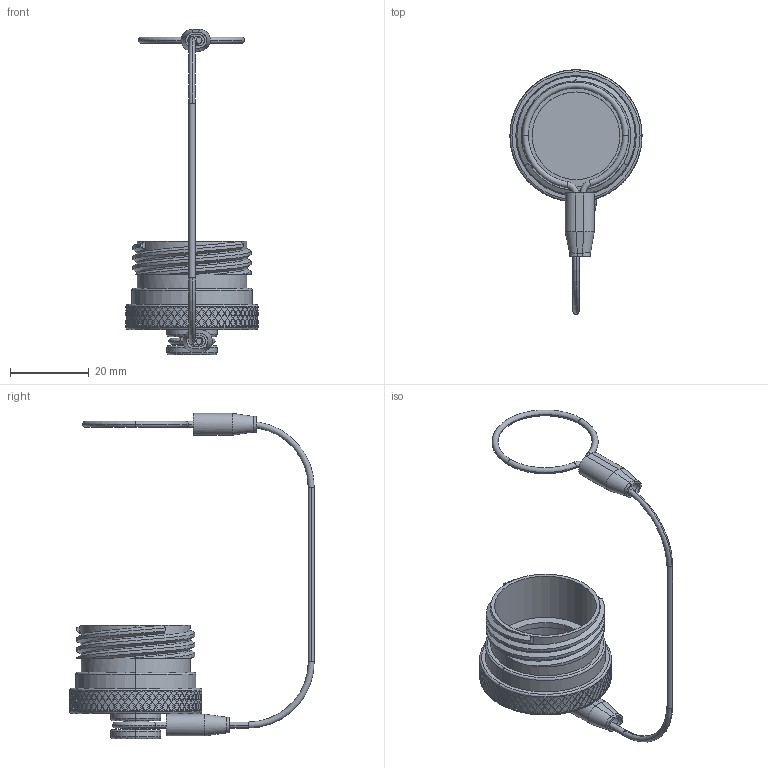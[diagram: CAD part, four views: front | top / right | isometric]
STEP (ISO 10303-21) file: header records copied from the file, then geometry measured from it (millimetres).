
FILE_DESCRIPTION (( 'STEP AP214' ), '1' );
FILE_NAME ('Q38DC-PGX-17-R2.STEP', '2026-04-22T18:20:34', ( '' ), ( '' ), 'SwSTEP 2.0', 'SolidWorks 2024', '' );
FILE_SCHEMA (( 'AUTOMOTIVE_DESIGN' ));
Length unit declared in the file: inch
Products named in the file (7): Q38-XX28-X_Q38-1728; SW-003; Q38-XX29-P_17P; HEAT SHRINK_HS-250X625; Q38DC-PGX-17-R2; LN-06-07-XX-Q38eb_Plug; Lanyard Assembly Q38_PLUG
Assembly tree (8 placements, depth 3):
  Q38DC-PGX-17-R2
    Q38-XX28-X_Q38-1728
    Lanyard Assembly Q38_PLUG
      LN-06-07-XX-Q38eb_Plug
      SW-003  x2
      HEAT SHRINK_HS-250X625  x2
    Q38-XX29-P_17P
Bounding box: 33.45 x 61.94 x 82.38 mm (x, y, z)
Volume: 8691.3 mm3; surface area: 9859.1 mm2
Topology: 7 solids, 7 shells, 1676 faces, 4025 edges, 2661 vertices
Faces by surface type: plane 1252, cylinder 373, torus 34, bspline 17
Entity records: 49002 total; most frequent: CARTESIAN_POINT 16593, ORIENTED_EDGE 7902, DIRECTION 5421, EDGE_CURVE 3951, VERTEX_POINT 2617, AXIS2_PLACEMENT_3D 2054, EDGE_LOOP 1946, ADVANCED_FACE 1642
